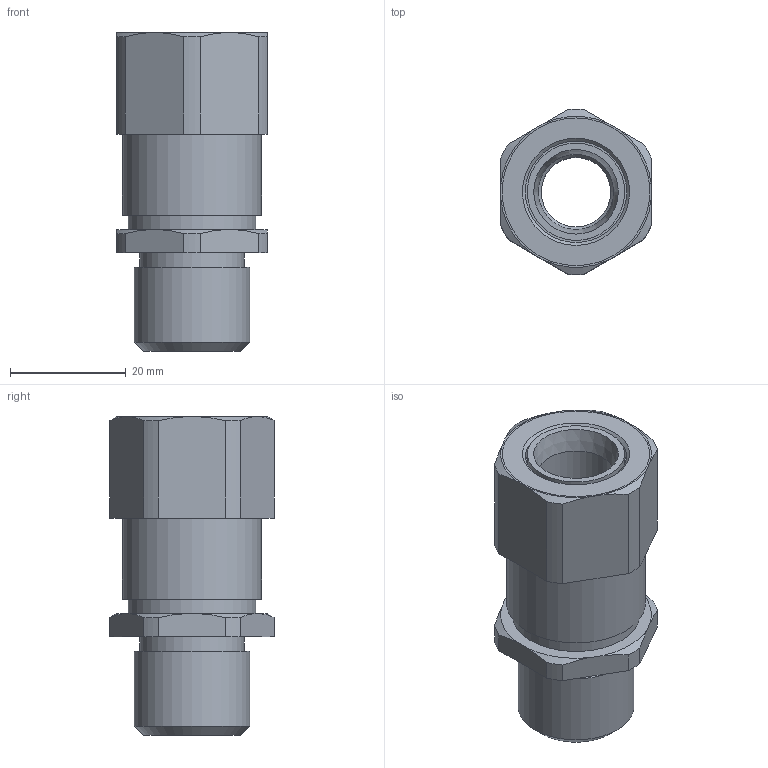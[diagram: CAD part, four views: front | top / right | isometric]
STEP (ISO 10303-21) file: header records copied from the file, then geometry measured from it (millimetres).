
FILE_DESCRIPTION((''),'2;1');
FILE_NAME('D:\WORKS\Чертежи\ТЗ\07.24\108974\КНВ1MНК_3d.stp','2024-07-31T09:03:25',('t.v.ogurnaya'),(''),'Autodesk Inventor 2012','Autodesk Inventor 2012','');
FILE_SCHEMA(('AUTOMOTIVE_DESIGN { 1 0 10303 214 1 1 1 1 }'));
Length unit declared in the file: millimetre
Products named in the file (1): FEC (параметрика)_Внешний контур_1
Bounding box: 26 x 28.48 x 55 mm (x, y, z)
Volume: 13621.4 mm3; surface area: 10975 mm2
Topology: 3 solids, 3 shells, 72 faces, 167 edges, 110 vertices
Faces by surface type: plane 27, cylinder 26, cone 19
Full cylindrical faces by diameter (mm): 12 x1, 13 x1, 16 x1, 16.8 x1, 17.5 x1, 18 x1, 19.5 x1, 20 x2, 21.5 x1, 22 x1, 22.376 x1, 24 x1, 25.5 x1
Entity records: 2027 total; most frequent: CARTESIAN_POINT 369, DIRECTION 334, ORIENTED_EDGE 284, AXIS2_PLACEMENT_3D 143, EDGE_CURVE 142, EDGE_LOOP 108, VERTEX_POINT 106, STYLED_ITEM 75
